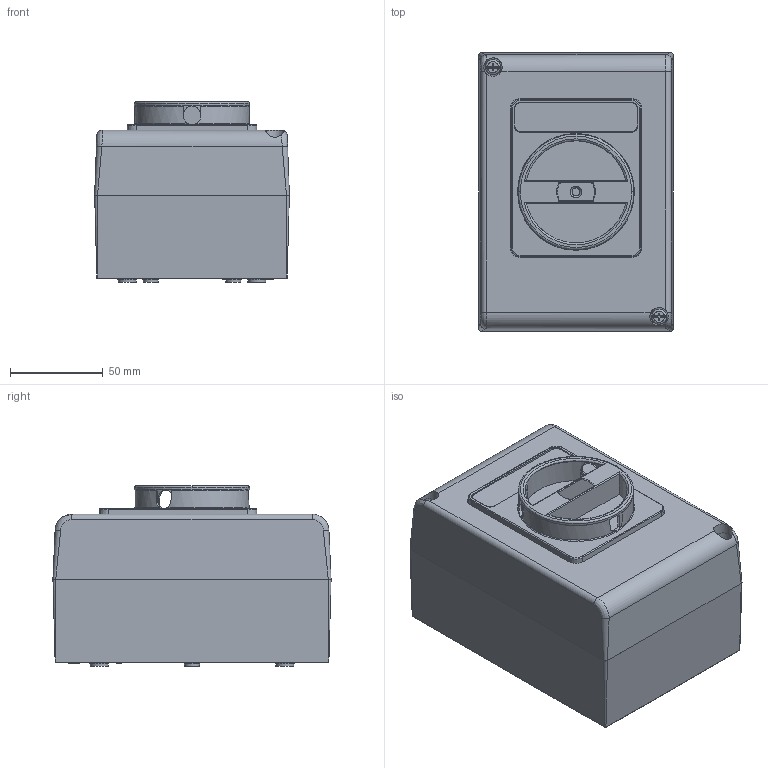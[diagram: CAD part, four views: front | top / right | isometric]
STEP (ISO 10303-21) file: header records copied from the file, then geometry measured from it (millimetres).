
FILE_DESCRIPTION(/* description */ (''),/* implementation_level */ '2;1');
FILE_NAME(/* name */ '4003198.stp',/* time_stamp */ '2017-05-04T09:20:36+02:00',/* author */ (''),/* organization */ (''),/* preprocessor_version */ 'ST-DEVELOPER v16',/* originating_system */ 'SIEMENS PLM Software NX 11.0',/* authorisation */ '');
FILE_SCHEMA (('AUTOMOTIVE_DESIGN { 1 0 10303 214 3 1 1 1 }'));
Length unit declared in the file: millimetre
Products named in the file (1): 4003198_LINKEDEXT_jt
Bounding box: 105 x 150 x 97.4 mm (x, y, z)
Surface area: 90061 mm2 (no closed solid volume)
Topology: 0 solids, 41 shells, 292 faces, 1085 edges, 820 vertices
Faces by surface type: cylinder 107, plane 105, bspline 35, torus 22, cone 21, sphere 2
Full cylindrical faces by diameter (mm): 3 x1, 8 x2, 9.95 x2, 62.1 x1
Entity records: 16306 total; most frequent: CARTESIAN_POINT 5832, DIRECTION 1700, ORIENTED_EDGE 1451, EDGE_CURVE 1044, VERTEX_POINT 808, AXIS2_PLACEMENT_3D 597, LINE 506, VECTOR 506
